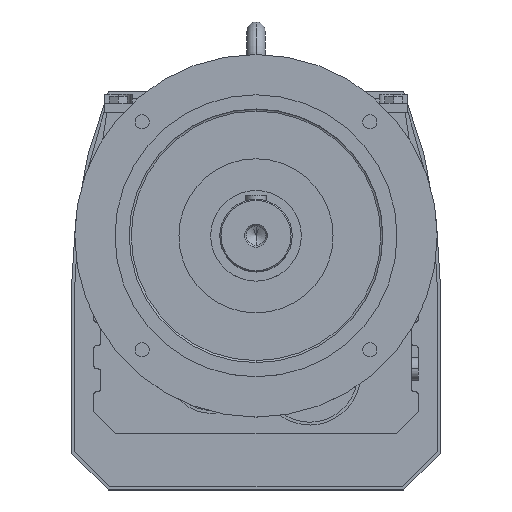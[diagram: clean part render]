
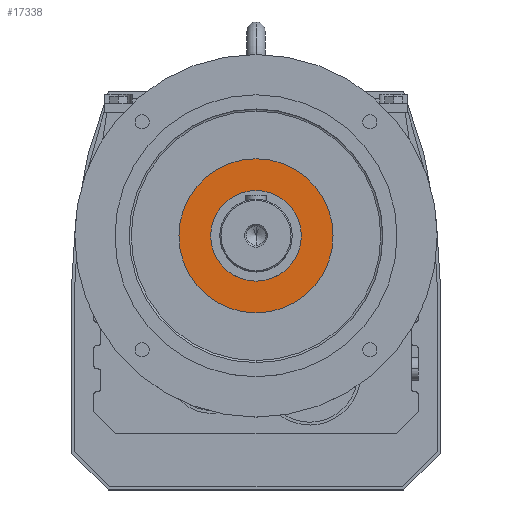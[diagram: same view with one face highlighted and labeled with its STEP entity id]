
A CAD part, top view. The second image highlights one B-rep face of the part: STEP entity #17338.
In plain terms, the highlighted planar face has unit normal (0, 0, 1).
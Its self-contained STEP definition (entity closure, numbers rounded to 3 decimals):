
#10190 = CYLINDRICAL_SURFACE('',#10191,95.681);
#10191 = AXIS2_PLACEMENT_3D('',#10192,#10193,#10194);
#10192 = CARTESIAN_POINT('',(0.,25.1,589.));
#10193 = DIRECTION('',(0.,0.,1.));
#10194 = DIRECTION('',(0.,-1.,0.));
#10243 = CYLINDRICAL_SURFACE('',#10244,95.681);
#10244 = AXIS2_PLACEMENT_3D('',#10245,#10246,#10247);
#10245 = CARTESIAN_POINT('',(0.,25.1,589.));
#10246 = DIRECTION('',(0.,0.,1.));
#10247 = DIRECTION('',(0.,-1.,0.));
#13655 = VERTEX_POINT('',#13656);
#13656 = CARTESIAN_POINT('',(0.,120.781,402.));
#13677 = VERTEX_POINT('',#13678);
#13678 = CARTESIAN_POINT('',(0.,-70.581,402.));
#13697 = EDGE_CURVE('',#13655,#13677,#13698,.T.);
#13698 = SURFACE_CURVE('',#13699,(#13704,#13733),.PCURVE_S1.);
#13699 = CIRCLE('',#13700,95.681);
#13700 = AXIS2_PLACEMENT_3D('',#13701,#13702,#13703);
#13701 = CARTESIAN_POINT('',(0.,25.1,402.));
#13702 = DIRECTION('',(0.,0.,-1.));
#13703 = DIRECTION('',(-1.,0.,0.));
#13704 = PCURVE('',#10190,#13705);
#13705 = DEFINITIONAL_REPRESENTATION('',(#13706),#13732);
#13706 = B_SPLINE_CURVE_WITH_KNOTS('',3,(#13707,#13708,#13709,#13710,
    #13711,#13712,#13713,#13714,#13715,#13716,#13717,#13718,#13719,
    #13720,#13721,#13722,#13723,#13724,#13725,#13726,#13727,#13728,
    #13729,#13730,#13731),.UNSPECIFIED.,.F.,.F.,(4,1,1,1,1,1,1,1,1,1,1,1
    ,1,1,1,1,1,1,1,1,1,1,4),(1.571,1.714,
    1.856,1.999,2.142,2.285,
    2.428,2.57,2.713,2.856,
    2.999,3.142,3.284,3.427,
    3.57,3.713,3.856,3.998,
    4.141,4.284,4.427,4.57,
    4.712),.QUASI_UNIFORM_KNOTS.);
#13707 = CARTESIAN_POINT('',(3.142,-187.));
#13708 = CARTESIAN_POINT('',(3.094,-187.));
#13709 = CARTESIAN_POINT('',(2.999,-187.));
#13710 = CARTESIAN_POINT('',(2.856,-187.));
#13711 = CARTESIAN_POINT('',(2.713,-187.));
#13712 = CARTESIAN_POINT('',(2.57,-187.));
#13713 = CARTESIAN_POINT('',(2.428,-187.));
#13714 = CARTESIAN_POINT('',(2.285,-187.));
#13715 = CARTESIAN_POINT('',(2.142,-187.));
#13716 = CARTESIAN_POINT('',(1.999,-187.));
#13717 = CARTESIAN_POINT('',(1.856,-187.));
#13718 = CARTESIAN_POINT('',(1.714,-187.));
#13719 = CARTESIAN_POINT('',(1.571,-187.));
#13720 = CARTESIAN_POINT('',(1.428,-187.));
#13721 = CARTESIAN_POINT('',(1.285,-187.));
#13722 = CARTESIAN_POINT('',(1.142,-187.));
#13723 = CARTESIAN_POINT('',(1.,-187.));
#13724 = CARTESIAN_POINT('',(0.857,-187.));
#13725 = CARTESIAN_POINT('',(0.714,-187.));
#13726 = CARTESIAN_POINT('',(0.571,-187.));
#13727 = CARTESIAN_POINT('',(0.428,-187.));
#13728 = CARTESIAN_POINT('',(0.286,-187.));
#13729 = CARTESIAN_POINT('',(0.143,-187.));
#13730 = CARTESIAN_POINT('',(0.048,-187.));
#13731 = CARTESIAN_POINT('',(0.,-187.));
#13732 = ( GEOMETRIC_REPRESENTATION_CONTEXT(2) 
PARAMETRIC_REPRESENTATION_CONTEXT() REPRESENTATION_CONTEXT('2D SPACE',''
  ) );
#13733 = PCURVE('',#13734,#13739);
#13734 = PLANE('',#13735);
#13735 = AXIS2_PLACEMENT_3D('',#13736,#13737,#13738);
#13736 = CARTESIAN_POINT('',(-41.274,9.674,402.));
#13737 = DIRECTION('',(0.,0.,-1.));
#13738 = DIRECTION('',(-1.,0.,0.));
#13739 = DEFINITIONAL_REPRESENTATION('',(#13740),#13744);
#13740 = CIRCLE('',#13741,95.681);
#13741 = AXIS2_PLACEMENT_2D('',#13742,#13743);
#13742 = CARTESIAN_POINT('',(-41.274,15.426));
#13743 = DIRECTION('',(1.,0.));
#13744 = ( GEOMETRIC_REPRESENTATION_CONTEXT(2) 
PARAMETRIC_REPRESENTATION_CONTEXT() REPRESENTATION_CONTEXT('2D SPACE',''
  ) );
#13749 = EDGE_CURVE('',#13677,#13655,#13750,.T.);
#13750 = SURFACE_CURVE('',#13751,(#13756,#13785),.PCURVE_S1.);
#13751 = CIRCLE('',#13752,95.681);
#13752 = AXIS2_PLACEMENT_3D('',#13753,#13754,#13755);
#13753 = CARTESIAN_POINT('',(0.,25.1,402.));
#13754 = DIRECTION('',(0.,0.,-1.));
#13755 = DIRECTION('',(-1.,0.,0.));
#13756 = PCURVE('',#10243,#13757);
#13757 = DEFINITIONAL_REPRESENTATION('',(#13758),#13784);
#13758 = B_SPLINE_CURVE_WITH_KNOTS('',3,(#13759,#13760,#13761,#13762,
    #13763,#13764,#13765,#13766,#13767,#13768,#13769,#13770,#13771,
    #13772,#13773,#13774,#13775,#13776,#13777,#13778,#13779,#13780,
    #13781,#13782,#13783),.UNSPECIFIED.,.F.,.F.,(4,1,1,1,1,1,1,1,1,1,1,1
    ,1,1,1,1,1,1,1,1,1,1,4),(4.712,4.855,
    4.998,5.141,5.284,5.426,
    5.569,5.712,5.855,5.998,
    6.14,6.283,6.426,6.569,
    6.712,6.854,6.997,7.14,
    7.283,7.426,7.568,7.711,
    7.854),.QUASI_UNIFORM_KNOTS.);
#13759 = CARTESIAN_POINT('',(6.283,-187.));
#13760 = CARTESIAN_POINT('',(6.236,-187.));
#13761 = CARTESIAN_POINT('',(6.14,-187.));
#13762 = CARTESIAN_POINT('',(5.998,-187.));
#13763 = CARTESIAN_POINT('',(5.855,-187.));
#13764 = CARTESIAN_POINT('',(5.712,-187.));
#13765 = CARTESIAN_POINT('',(5.569,-187.));
#13766 = CARTESIAN_POINT('',(5.426,-187.));
#13767 = CARTESIAN_POINT('',(5.284,-187.));
#13768 = CARTESIAN_POINT('',(5.141,-187.));
#13769 = CARTESIAN_POINT('',(4.998,-187.));
#13770 = CARTESIAN_POINT('',(4.855,-187.));
#13771 = CARTESIAN_POINT('',(4.712,-187.));
#13772 = CARTESIAN_POINT('',(4.57,-187.));
#13773 = CARTESIAN_POINT('',(4.427,-187.));
#13774 = CARTESIAN_POINT('',(4.284,-187.));
#13775 = CARTESIAN_POINT('',(4.141,-187.));
#13776 = CARTESIAN_POINT('',(3.998,-187.));
#13777 = CARTESIAN_POINT('',(3.856,-187.));
#13778 = CARTESIAN_POINT('',(3.713,-187.));
#13779 = CARTESIAN_POINT('',(3.57,-187.));
#13780 = CARTESIAN_POINT('',(3.427,-187.));
#13781 = CARTESIAN_POINT('',(3.284,-187.));
#13782 = CARTESIAN_POINT('',(3.189,-187.));
#13783 = CARTESIAN_POINT('',(3.142,-187.));
#13784 = ( GEOMETRIC_REPRESENTATION_CONTEXT(2) 
PARAMETRIC_REPRESENTATION_CONTEXT() REPRESENTATION_CONTEXT('2D SPACE',''
  ) );
#13785 = PCURVE('',#13734,#13786);
#13786 = DEFINITIONAL_REPRESENTATION('',(#13787),#13791);
#13787 = CIRCLE('',#13788,95.681);
#13788 = AXIS2_PLACEMENT_2D('',#13789,#13790);
#13789 = CARTESIAN_POINT('',(-41.274,15.426));
#13790 = DIRECTION('',(1.,0.));
#13791 = ( GEOMETRIC_REPRESENTATION_CONTEXT(2) 
PARAMETRIC_REPRESENTATION_CONTEXT() REPRESENTATION_CONTEXT('2D SPACE',''
  ) );
#17338 = ADVANCED_FACE('',(#17339,#17405),#13734,.F.);
#17339 = FACE_BOUND('',#17340,.T.);
#17340 = EDGE_LOOP('',(#17341,#17375));
#17341 = ORIENTED_EDGE('',*,*,#17342,.F.);
#17342 = EDGE_CURVE('',#17343,#17345,#17347,.T.);
#17343 = VERTEX_POINT('',#17344);
#17344 = CARTESIAN_POINT('',(0.,-31.15,402.));
#17345 = VERTEX_POINT('',#17346);
#17346 = CARTESIAN_POINT('',(0.,81.35,402.));
#17347 = SURFACE_CURVE('',#17348,(#17353,#17364),.PCURVE_S1.);
#17348 = CIRCLE('',#17349,56.25);
#17349 = AXIS2_PLACEMENT_3D('',#17350,#17351,#17352);
#17350 = CARTESIAN_POINT('',(0.,25.1,402.));
#17351 = DIRECTION('',(0.,0.,1.));
#17352 = DIRECTION('',(-1.,0.,0.));
#17353 = PCURVE('',#13734,#17354);
#17354 = DEFINITIONAL_REPRESENTATION('',(#17355),#17363);
#17355 = ( BOUNDED_CURVE() B_SPLINE_CURVE(2,(#17356,#17357,#17358,#17359
    ,#17360,#17361,#17362),.UNSPECIFIED.,.F.,.F.) 
B_SPLINE_CURVE_WITH_KNOTS((1,2,2,2,2,1),(-2.094,0.,
    2.094,4.189,6.283,8.378),
.UNSPECIFIED.) CURVE() GEOMETRIC_REPRESENTATION_ITEM() 
RATIONAL_B_SPLINE_CURVE((1.,0.5,1.,0.5,1.,0.5,1.)) REPRESENTATION_ITEM(
  '') );
#17356 = CARTESIAN_POINT('',(14.976,15.426));
#17357 = CARTESIAN_POINT('',(14.976,-82.001));
#17358 = CARTESIAN_POINT('',(-69.399,-33.288));
#17359 = CARTESIAN_POINT('',(-153.774,15.426));
#17360 = CARTESIAN_POINT('',(-69.399,64.14));
#17361 = CARTESIAN_POINT('',(14.976,112.854));
#17362 = CARTESIAN_POINT('',(14.976,15.426));
#17363 = ( GEOMETRIC_REPRESENTATION_CONTEXT(2) 
PARAMETRIC_REPRESENTATION_CONTEXT() REPRESENTATION_CONTEXT('2D SPACE',''
  ) );
#17364 = PCURVE('',#17365,#17370);
#17365 = CYLINDRICAL_SURFACE('',#17366,56.25);
#17366 = AXIS2_PLACEMENT_3D('',#17367,#17368,#17369);
#17367 = CARTESIAN_POINT('',(0.,25.1,589.));
#17368 = DIRECTION('',(0.,0.,1.));
#17369 = DIRECTION('',(0.,-1.,0.));
#17370 = DEFINITIONAL_REPRESENTATION('',(#17371),#17374);
#17371 = B_SPLINE_CURVE_WITH_KNOTS('',1,(#17372,#17373),.UNSPECIFIED.,
  .F.,.F.,(2,2),(1.571,4.712),
  .PIECEWISE_BEZIER_KNOTS.);
#17372 = CARTESIAN_POINT('',(0.,-187.));
#17373 = CARTESIAN_POINT('',(3.142,-187.));
#17374 = ( GEOMETRIC_REPRESENTATION_CONTEXT(2) 
PARAMETRIC_REPRESENTATION_CONTEXT() REPRESENTATION_CONTEXT('2D SPACE',''
  ) );
#17375 = ORIENTED_EDGE('',*,*,#17376,.F.);
#17376 = EDGE_CURVE('',#17345,#17343,#17377,.T.);
#17377 = SURFACE_CURVE('',#17378,(#17383,#17394),.PCURVE_S1.);
#17378 = CIRCLE('',#17379,56.25);
#17379 = AXIS2_PLACEMENT_3D('',#17380,#17381,#17382);
#17380 = CARTESIAN_POINT('',(0.,25.1,402.));
#17381 = DIRECTION('',(0.,0.,1.));
#17382 = DIRECTION('',(-1.,0.,0.));
#17383 = PCURVE('',#13734,#17384);
#17384 = DEFINITIONAL_REPRESENTATION('',(#17385),#17393);
#17385 = ( BOUNDED_CURVE() B_SPLINE_CURVE(2,(#17386,#17387,#17388,#17389
    ,#17390,#17391,#17392),.UNSPECIFIED.,.F.,.F.) 
B_SPLINE_CURVE_WITH_KNOTS((1,2,2,2,2,1),(-2.094,0.,
    2.094,4.189,6.283,8.378),
.UNSPECIFIED.) CURVE() GEOMETRIC_REPRESENTATION_ITEM() 
RATIONAL_B_SPLINE_CURVE((1.,0.5,1.,0.5,1.,0.5,1.)) REPRESENTATION_ITEM(
  '') );
#17386 = CARTESIAN_POINT('',(14.976,15.426));
#17387 = CARTESIAN_POINT('',(14.976,-82.001));
#17388 = CARTESIAN_POINT('',(-69.399,-33.288));
#17389 = CARTESIAN_POINT('',(-153.774,15.426));
#17390 = CARTESIAN_POINT('',(-69.399,64.14));
#17391 = CARTESIAN_POINT('',(14.976,112.854));
#17392 = CARTESIAN_POINT('',(14.976,15.426));
#17393 = ( GEOMETRIC_REPRESENTATION_CONTEXT(2) 
PARAMETRIC_REPRESENTATION_CONTEXT() REPRESENTATION_CONTEXT('2D SPACE',''
  ) );
#17394 = PCURVE('',#17395,#17400);
#17395 = CYLINDRICAL_SURFACE('',#17396,56.25);
#17396 = AXIS2_PLACEMENT_3D('',#17397,#17398,#17399);
#17397 = CARTESIAN_POINT('',(0.,25.1,589.));
#17398 = DIRECTION('',(0.,0.,1.));
#17399 = DIRECTION('',(0.,-1.,0.));
#17400 = DEFINITIONAL_REPRESENTATION('',(#17401),#17404);
#17401 = B_SPLINE_CURVE_WITH_KNOTS('',1,(#17402,#17403),.UNSPECIFIED.,
  .F.,.F.,(2,2),(4.712,7.854),
  .PIECEWISE_BEZIER_KNOTS.);
#17402 = CARTESIAN_POINT('',(3.142,-187.));
#17403 = CARTESIAN_POINT('',(6.283,-187.));
#17404 = ( GEOMETRIC_REPRESENTATION_CONTEXT(2) 
PARAMETRIC_REPRESENTATION_CONTEXT() REPRESENTATION_CONTEXT('2D SPACE',''
  ) );
#17405 = FACE_BOUND('',#17406,.T.);
#17406 = EDGE_LOOP('',(#17407,#17408));
#17407 = ORIENTED_EDGE('',*,*,#13749,.F.);
#17408 = ORIENTED_EDGE('',*,*,#13697,.F.);
